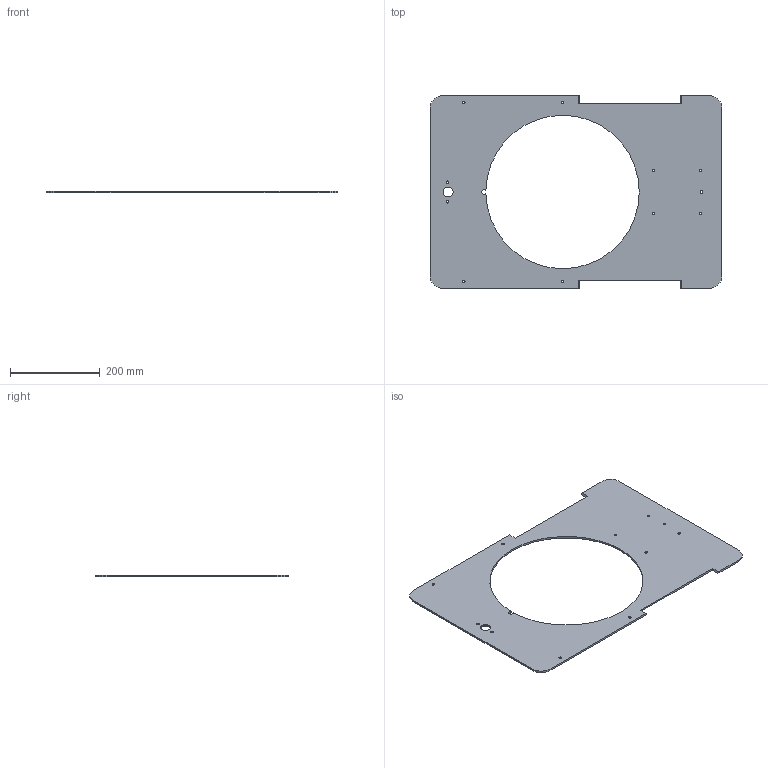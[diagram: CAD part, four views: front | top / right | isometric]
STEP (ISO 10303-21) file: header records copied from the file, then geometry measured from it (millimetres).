
FILE_DESCRIPTION(('Open CASCADE Model'),'2;1');
FILE_NAME('Open CASCADE Shape Model','2026-09-16T16:54:27',('Author'),( 'Open CASCADE'),'Open CASCADE STEP processor 7.8','Open CASCADE 7.8' ,'Unknown');
FILE_SCHEMA(('AUTOMOTIVE_DESIGN { 1 0 10303 214 1 1 1 1 }'));
Length unit declared in the file: millimetre
Products named in the file (1): Open CASCADE STEP translator 7.8 2
Bounding box: 650 x 430 x 4 mm (x, y, z)
Volume: 712385.9 mm3; surface area: 370329.1 mm2
Topology: 1 solids, 1 shells, 34 faces, 95 edges, 63 vertices
Faces by surface type: cylinder 24, plane 10
Full cylindrical faces by diameter (mm): 5.2 x11, 22.2 x2
Entity records: 2483 total; most frequent: CARTESIAN_POINT 603, DIRECTION 342, ORIENTED_EDGE 190, PCURVE 190, DEFINITIONAL_REPRESENTATION 190, LINE 164, VECTOR 164, EDGE_CURVE 95
